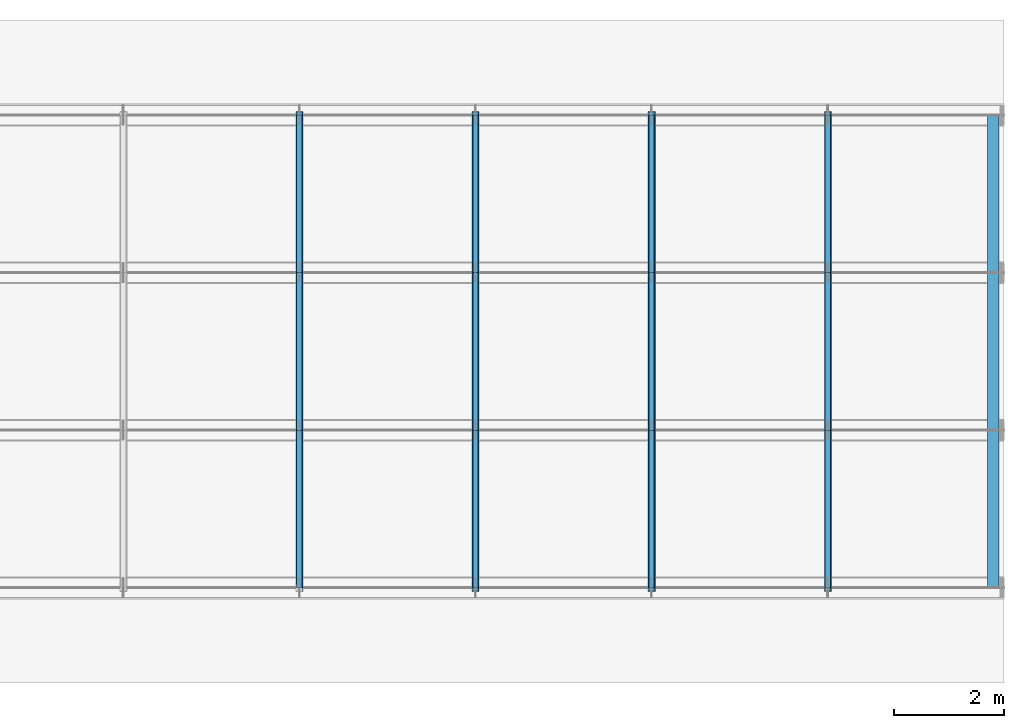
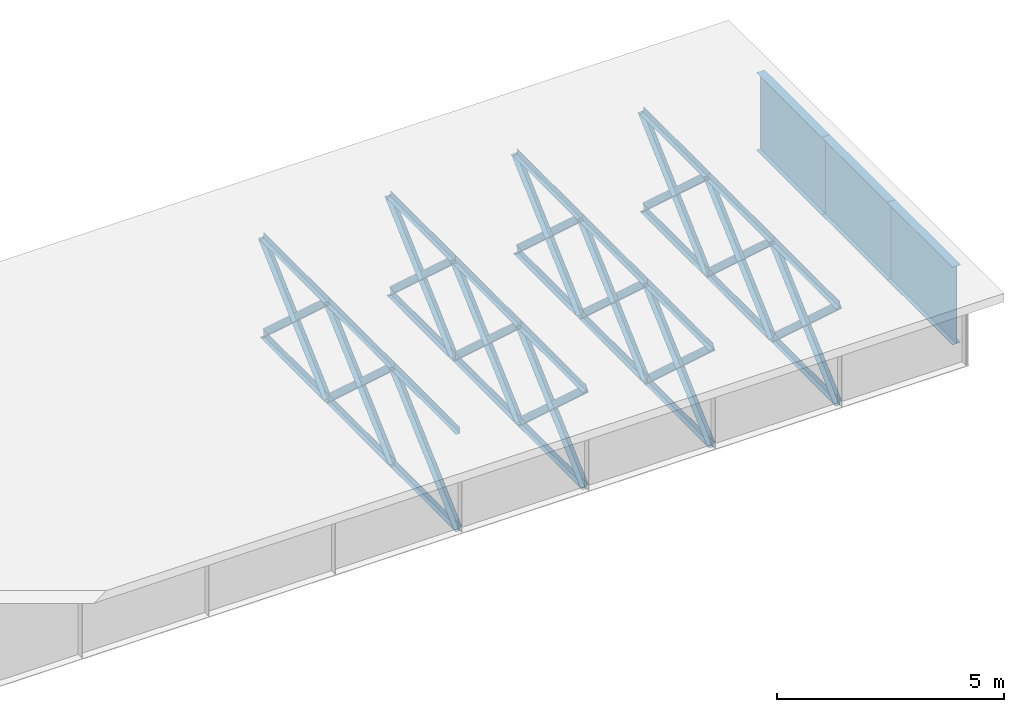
# One storey, part 2 of 13: 50 members.
"""IFC4 building model written with IfcOpenShell, lengths in metres."""

from ifc_helpers import new_model, si_unit, frame, origin, origin_with_axes, origin_2d_with_axis, place, context, subcontext, project, spatial, i_section, l_section, extrude, element, save


model = new_model("IFC4")

# Units and contexts
model_context = context("Model", 3, precision=1e-05, world=origin())
body_context = subcontext(model_context, "Body", "Model", "MODEL_VIEW")
ifc_project = project(units=[si_unit("LENGTHUNIT", "METRE"), si_unit("AREAUNIT", "SQUARE_METRE"), si_unit("VOLUMEUNIT", "CUBIC_METRE"), si_unit("PLANEANGLEUNIT", "RADIAN")], contexts=[model_context])

# Site, building, storey
site_placement = place(None, origin_with_axes())
site = spatial("IfcSite", under=ifc_project, at=site_placement, Name="Default Site")
building_placement = place(site_placement, origin_with_axes())
building = spatial("IfcBuilding", under=site, at=building_placement, Name="Bridge Structure")
storey_placement = place(building_placement, origin_with_axes())
storey = spatial("IfcBuildingStorey", under=building, at=storey_placement, Name="Superstructure")

# Members
member_placement = place(storey_placement, frame((32.14285714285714, -4.3125, -1.307), z_axis=(0.0, 0.7398934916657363, 0.6727240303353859), x_axis=(-1.0, 0.0, 0.0)))
element("IfcMember", 1, at=member_placement, inside=storey, Name="Diagonal Brace", context=body_context, shape_type="SweptSolid", body=[
    extrude(l_section(Depth=0.196, Width=0.13, Thickness=0.008, at=origin_2d_with_axis()), origin_with_axes(), (0.0, 0.0, 1.0), 3.88569440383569),
])
for number, where, z_axis, x_axis, name in (
    (2, (32.14285714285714, -4.3125, -1.307), (0.0, 1.0, 0.0), (-1.0, 0.0, 0.0), "Bottom Chord"),
    (3, (32.14285714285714, -4.3125, 1.307), (0.0, 1.0, 0.0), (-1.0, 0.0, 0.0), "Top Chord"),
):
    element("IfcMember", number, at=place(storey_placement, frame(where, z_axis=z_axis, x_axis=x_axis)), inside=storey, Name=name, context=body_context, shape_type="SweptSolid", body=[
        extrude(l_section(Depth=0.169, Width=0.10400000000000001, Thickness=0.008, at=origin_2d_with_axis()), origin_with_axes(), (0.0, 0.0, 1.0), 2.875),
    ])
for number, where, z_axis, x_axis, name in (
    (4, (32.14285714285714, -1.4375, 1.307), (0.0, 0.7398934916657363, -0.6727240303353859), (-1.0, 0.0, 0.0), "Diagonal Brace"),
    (5, (32.14285714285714, -1.4375, -1.307), (0.0, 0.7398934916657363, 0.6727240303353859), (-1.0, 0.0, 0.0), "Diagonal Brace"),
):
    element("IfcMember", number, at=place(storey_placement, frame(where, z_axis=z_axis, x_axis=x_axis)), inside=storey, Name=name, context=body_context, shape_type="SweptSolid", body=[
        extrude(l_section(Depth=0.196, Width=0.13, Thickness=0.008, at=origin_2d_with_axis()), origin_with_axes(), (0.0, 0.0, 1.0), 3.88569440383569),
    ])
for number, where, z_axis, x_axis, name in (
    (6, (32.14285714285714, -1.4375, -1.307), (0.0, 1.0, 0.0), (-1.0, 0.0, 0.0), "Bottom Chord"),
    (7, (32.14285714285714, -1.4375, 1.307), (0.0, 1.0, 0.0), (-1.0, 0.0, 0.0), "Top Chord"),
):
    element("IfcMember", number, at=place(storey_placement, frame(where, z_axis=z_axis, x_axis=x_axis)), inside=storey, Name=name, context=body_context, shape_type="SweptSolid", body=[
        extrude(l_section(Depth=0.169, Width=0.10400000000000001, Thickness=0.008, at=origin_2d_with_axis()), origin_with_axes(), (0.0, 0.0, 1.0), 2.875),
    ])
for number, where, z_axis, x_axis, name in (
    (8, (32.14285714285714, 1.4375, 1.307), (0.0, 0.7398934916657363, -0.6727240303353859), (-1.0, 0.0, 0.0), "Diagonal Brace"),
    (9, (32.14285714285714, 1.4375, -1.307), (0.0, 0.7398934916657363, 0.6727240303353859), (-1.0, 0.0, 0.0), "Diagonal Brace"),
):
    element("IfcMember", number, at=place(storey_placement, frame(where, z_axis=z_axis, x_axis=x_axis)), inside=storey, Name=name, context=body_context, shape_type="SweptSolid", body=[
        extrude(l_section(Depth=0.196, Width=0.13, Thickness=0.008, at=origin_2d_with_axis()), origin_with_axes(), (0.0, 0.0, 1.0), 3.88569440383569),
    ])
for number, where, z_axis, x_axis, name in (
    (10, (32.14285714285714, 1.4375, -1.307), (0.0, 1.0, 0.0), (-1.0, 0.0, 0.0), "Bottom Chord"),
    (11, (32.14285714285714, 1.4375, 1.307), (0.0, 1.0, 0.0), (-1.0, 0.0, 0.0), "Top Chord"),
):
    element("IfcMember", number, at=place(storey_placement, frame(where, z_axis=z_axis, x_axis=x_axis)), inside=storey, Name=name, context=body_context, shape_type="SweptSolid", body=[
        extrude(l_section(Depth=0.169, Width=0.10400000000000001, Thickness=0.008, at=origin_2d_with_axis()), origin_with_axes(), (0.0, 0.0, 1.0), 2.875),
    ])
for number, where, z_axis, x_axis, name in (
    (12, (35.357142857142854, -4.3125, 1.307), (0.0, 0.7398934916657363, -0.6727240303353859), (-1.0, 0.0, 0.0), "Diagonal Brace"),
    (13, (35.357142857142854, -4.3125, -1.307), (0.0, 0.7398934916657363, 0.6727240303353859), (-1.0, 0.0, 0.0), "Diagonal Brace"),
):
    element("IfcMember", number, at=place(storey_placement, frame(where, z_axis=z_axis, x_axis=x_axis)), inside=storey, Name=name, context=body_context, shape_type="SweptSolid", body=[
        extrude(l_section(Depth=0.196, Width=0.13, Thickness=0.008, at=origin_2d_with_axis()), origin_with_axes(), (0.0, 0.0, 1.0), 3.88569440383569),
    ])
for number, where, z_axis, x_axis, name in (
    (14, (35.357142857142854, -4.3125, -1.307), (0.0, 1.0, 0.0), (-1.0, 0.0, 0.0), "Bottom Chord"),
    (15, (35.357142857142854, -4.3125, 1.307), (0.0, 1.0, 0.0), (-1.0, 0.0, 0.0), "Top Chord"),
):
    element("IfcMember", number, at=place(storey_placement, frame(where, z_axis=z_axis, x_axis=x_axis)), inside=storey, Name=name, context=body_context, shape_type="SweptSolid", body=[
        extrude(l_section(Depth=0.169, Width=0.10400000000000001, Thickness=0.008, at=origin_2d_with_axis()), origin_with_axes(), (0.0, 0.0, 1.0), 2.875),
    ])
for number, where, z_axis, x_axis, name in (
    (16, (35.357142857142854, -1.4375, 1.307), (0.0, 0.7398934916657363, -0.6727240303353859), (-1.0, 0.0, 0.0), "Diagonal Brace"),
    (17, (35.357142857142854, -1.4375, -1.307), (0.0, 0.7398934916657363, 0.6727240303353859), (-1.0, 0.0, 0.0), "Diagonal Brace"),
):
    element("IfcMember", number, at=place(storey_placement, frame(where, z_axis=z_axis, x_axis=x_axis)), inside=storey, Name=name, context=body_context, shape_type="SweptSolid", body=[
        extrude(l_section(Depth=0.196, Width=0.13, Thickness=0.008, at=origin_2d_with_axis()), origin_with_axes(), (0.0, 0.0, 1.0), 3.88569440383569),
    ])
for number, where, z_axis, x_axis, name in (
    (18, (35.357142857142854, -1.4375, -1.307), (0.0, 1.0, 0.0), (-1.0, 0.0, 0.0), "Bottom Chord"),
    (19, (35.357142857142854, -1.4375, 1.307), (0.0, 1.0, 0.0), (-1.0, 0.0, 0.0), "Top Chord"),
):
    element("IfcMember", number, at=place(storey_placement, frame(where, z_axis=z_axis, x_axis=x_axis)), inside=storey, Name=name, context=body_context, shape_type="SweptSolid", body=[
        extrude(l_section(Depth=0.169, Width=0.10400000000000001, Thickness=0.008, at=origin_2d_with_axis()), origin_with_axes(), (0.0, 0.0, 1.0), 2.875),
    ])
for number, where, z_axis, x_axis, name in (
    (20, (35.357142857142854, 1.4375, 1.307), (0.0, 0.7398934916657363, -0.6727240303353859), (-1.0, 0.0, 0.0), "Diagonal Brace"),
    (21, (35.357142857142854, 1.4375, -1.307), (0.0, 0.7398934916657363, 0.6727240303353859), (-1.0, 0.0, 0.0), "Diagonal Brace"),
):
    element("IfcMember", number, at=place(storey_placement, frame(where, z_axis=z_axis, x_axis=x_axis)), inside=storey, Name=name, context=body_context, shape_type="SweptSolid", body=[
        extrude(l_section(Depth=0.196, Width=0.13, Thickness=0.008, at=origin_2d_with_axis()), origin_with_axes(), (0.0, 0.0, 1.0), 3.88569440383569),
    ])
for number, where, z_axis, x_axis, name in (
    (22, (35.357142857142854, 1.4375, -1.307), (0.0, 1.0, 0.0), (-1.0, 0.0, 0.0), "Bottom Chord"),
    (23, (35.357142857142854, 1.4375, 1.307), (0.0, 1.0, 0.0), (-1.0, 0.0, 0.0), "Top Chord"),
):
    element("IfcMember", number, at=place(storey_placement, frame(where, z_axis=z_axis, x_axis=x_axis)), inside=storey, Name=name, context=body_context, shape_type="SweptSolid", body=[
        extrude(l_section(Depth=0.169, Width=0.10400000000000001, Thickness=0.008, at=origin_2d_with_axis()), origin_with_axes(), (0.0, 0.0, 1.0), 2.875),
    ])
for number, where, z_axis, x_axis, name in (
    (24, (38.57142857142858, -4.3125, 1.307), (0.0, 0.7398934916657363, -0.6727240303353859), (-1.0, 0.0, 0.0), "Diagonal Brace"),
    (25, (38.57142857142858, -4.3125, -1.307), (0.0, 0.7398934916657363, 0.6727240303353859), (-1.0, 0.0, 0.0), "Diagonal Brace"),
):
    element("IfcMember", number, at=place(storey_placement, frame(where, z_axis=z_axis, x_axis=x_axis)), inside=storey, Name=name, context=body_context, shape_type="SweptSolid", body=[
        extrude(l_section(Depth=0.196, Width=0.13, Thickness=0.008, at=origin_2d_with_axis()), origin_with_axes(), (0.0, 0.0, 1.0), 3.88569440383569),
    ])
for number, where, z_axis, x_axis, name in (
    (26, (38.57142857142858, -4.3125, -1.307), (0.0, 1.0, 0.0), (-1.0, 0.0, 0.0), "Bottom Chord"),
    (27, (38.57142857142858, -4.3125, 1.307), (0.0, 1.0, 0.0), (-1.0, 0.0, 0.0), "Top Chord"),
):
    element("IfcMember", number, at=place(storey_placement, frame(where, z_axis=z_axis, x_axis=x_axis)), inside=storey, Name=name, context=body_context, shape_type="SweptSolid", body=[
        extrude(l_section(Depth=0.169, Width=0.10400000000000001, Thickness=0.008, at=origin_2d_with_axis()), origin_with_axes(), (0.0, 0.0, 1.0), 2.875),
    ])
for number, where, z_axis, x_axis, name in (
    (28, (38.57142857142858, -1.4375, 1.307), (0.0, 0.7398934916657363, -0.6727240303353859), (-1.0, 0.0, 0.0), "Diagonal Brace"),
    (29, (38.57142857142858, -1.4375, -1.307), (0.0, 0.7398934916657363, 0.6727240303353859), (-1.0, 0.0, 0.0), "Diagonal Brace"),
):
    element("IfcMember", number, at=place(storey_placement, frame(where, z_axis=z_axis, x_axis=x_axis)), inside=storey, Name=name, context=body_context, shape_type="SweptSolid", body=[
        extrude(l_section(Depth=0.196, Width=0.13, Thickness=0.008, at=origin_2d_with_axis()), origin_with_axes(), (0.0, 0.0, 1.0), 3.88569440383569),
    ])
for number, where, z_axis, x_axis, name in (
    (30, (38.57142857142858, -1.4375, -1.307), (0.0, 1.0, 0.0), (-1.0, 0.0, 0.0), "Bottom Chord"),
    (31, (38.57142857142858, -1.4375, 1.307), (0.0, 1.0, 0.0), (-1.0, 0.0, 0.0), "Top Chord"),
):
    element("IfcMember", number, at=place(storey_placement, frame(where, z_axis=z_axis, x_axis=x_axis)), inside=storey, Name=name, context=body_context, shape_type="SweptSolid", body=[
        extrude(l_section(Depth=0.169, Width=0.10400000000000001, Thickness=0.008, at=origin_2d_with_axis()), origin_with_axes(), (0.0, 0.0, 1.0), 2.875),
    ])
for number, where, z_axis, x_axis, name in (
    (32, (38.57142857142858, 1.4375, 1.307), (0.0, 0.7398934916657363, -0.6727240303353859), (-1.0, 0.0, 0.0), "Diagonal Brace"),
    (33, (38.57142857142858, 1.4375, -1.307), (0.0, 0.7398934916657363, 0.6727240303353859), (-1.0, 0.0, 0.0), "Diagonal Brace"),
):
    element("IfcMember", number, at=place(storey_placement, frame(where, z_axis=z_axis, x_axis=x_axis)), inside=storey, Name=name, context=body_context, shape_type="SweptSolid", body=[
        extrude(l_section(Depth=0.196, Width=0.13, Thickness=0.008, at=origin_2d_with_axis()), origin_with_axes(), (0.0, 0.0, 1.0), 3.88569440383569),
    ])
for number, where, z_axis, x_axis, name in (
    (34, (38.57142857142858, 1.4375, -1.307), (0.0, 1.0, 0.0), (-1.0, 0.0, 0.0), "Bottom Chord"),
    (35, (38.57142857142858, 1.4375, 1.307), (0.0, 1.0, 0.0), (-1.0, 0.0, 0.0), "Top Chord"),
):
    element("IfcMember", number, at=place(storey_placement, frame(where, z_axis=z_axis, x_axis=x_axis)), inside=storey, Name=name, context=body_context, shape_type="SweptSolid", body=[
        extrude(l_section(Depth=0.169, Width=0.10400000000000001, Thickness=0.008, at=origin_2d_with_axis()), origin_with_axes(), (0.0, 0.0, 1.0), 2.875),
    ])
for number, where, z_axis, x_axis, name in (
    (36, (41.785714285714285, -4.3125, 1.307), (0.0, 0.7398934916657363, -0.6727240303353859), (-1.0, 0.0, 0.0), "Diagonal Brace"),
    (37, (41.785714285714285, -4.3125, -1.307), (0.0, 0.7398934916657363, 0.6727240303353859), (-1.0, 0.0, 0.0), "Diagonal Brace"),
):
    element("IfcMember", number, at=place(storey_placement, frame(where, z_axis=z_axis, x_axis=x_axis)), inside=storey, Name=name, context=body_context, shape_type="SweptSolid", body=[
        extrude(l_section(Depth=0.196, Width=0.13, Thickness=0.008, at=origin_2d_with_axis()), origin_with_axes(), (0.0, 0.0, 1.0), 3.88569440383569),
    ])
for number, where, z_axis, x_axis, name in (
    (38, (41.785714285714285, -4.3125, -1.307), (0.0, 1.0, 0.0), (-1.0, 0.0, 0.0), "Bottom Chord"),
    (39, (41.785714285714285, -4.3125, 1.307), (0.0, 1.0, 0.0), (-1.0, 0.0, 0.0), "Top Chord"),
):
    element("IfcMember", number, at=place(storey_placement, frame(where, z_axis=z_axis, x_axis=x_axis)), inside=storey, Name=name, context=body_context, shape_type="SweptSolid", body=[
        extrude(l_section(Depth=0.169, Width=0.10400000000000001, Thickness=0.008, at=origin_2d_with_axis()), origin_with_axes(), (0.0, 0.0, 1.0), 2.875),
    ])
for number, where, z_axis, x_axis, name in (
    (40, (41.785714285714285, -1.4375, 1.307), (0.0, 0.7398934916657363, -0.6727240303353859), (-1.0, 0.0, 0.0), "Diagonal Brace"),
    (41, (41.785714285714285, -1.4375, -1.307), (0.0, 0.7398934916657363, 0.6727240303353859), (-1.0, 0.0, 0.0), "Diagonal Brace"),
):
    element("IfcMember", number, at=place(storey_placement, frame(where, z_axis=z_axis, x_axis=x_axis)), inside=storey, Name=name, context=body_context, shape_type="SweptSolid", body=[
        extrude(l_section(Depth=0.196, Width=0.13, Thickness=0.008, at=origin_2d_with_axis()), origin_with_axes(), (0.0, 0.0, 1.0), 3.88569440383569),
    ])
for number, where, z_axis, x_axis, name in (
    (42, (41.785714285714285, -1.4375, -1.307), (0.0, 1.0, 0.0), (-1.0, 0.0, 0.0), "Bottom Chord"),
    (43, (41.785714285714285, -1.4375, 1.307), (0.0, 1.0, 0.0), (-1.0, 0.0, 0.0), "Top Chord"),
):
    element("IfcMember", number, at=place(storey_placement, frame(where, z_axis=z_axis, x_axis=x_axis)), inside=storey, Name=name, context=body_context, shape_type="SweptSolid", body=[
        extrude(l_section(Depth=0.169, Width=0.10400000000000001, Thickness=0.008, at=origin_2d_with_axis()), origin_with_axes(), (0.0, 0.0, 1.0), 2.875),
    ])
for number, where, z_axis, x_axis, name in (
    (44, (41.785714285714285, 1.4375, 1.307), (0.0, 0.7398934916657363, -0.6727240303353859), (-1.0, 0.0, 0.0), "Diagonal Brace"),
    (45, (41.785714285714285, 1.4375, -1.307), (0.0, 0.7398934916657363, 0.6727240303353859), (-1.0, 0.0, 0.0), "Diagonal Brace"),
):
    element("IfcMember", number, at=place(storey_placement, frame(where, z_axis=z_axis, x_axis=x_axis)), inside=storey, Name=name, context=body_context, shape_type="SweptSolid", body=[
        extrude(l_section(Depth=0.196, Width=0.13, Thickness=0.008, at=origin_2d_with_axis()), origin_with_axes(), (0.0, 0.0, 1.0), 3.88569440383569),
    ])
for number, where, z_axis, x_axis, name in (
    (46, (41.785714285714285, 1.4375, -1.307), (0.0, 1.0, 0.0), (-1.0, 0.0, 0.0), "Bottom Chord"),
    (47, (41.785714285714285, 1.4375, 1.307), (0.0, 1.0, 0.0), (-1.0, 0.0, 0.0), "Top Chord"),
):
    element("IfcMember", number, at=place(storey_placement, frame(where, z_axis=z_axis, x_axis=x_axis)), inside=storey, Name=name, context=body_context, shape_type="SweptSolid", body=[
        extrude(l_section(Depth=0.169, Width=0.10400000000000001, Thickness=0.008, at=origin_2d_with_axis()), origin_with_axes(), (0.0, 0.0, 1.0), 2.875),
    ])
for number, where, z_axis, x_axis, name in (
    (48, (44.800000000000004, -4.3125, 0.2615), (0.0, 1.0, 0.0), (-1.0, 0.0, 0.0), "End Diaphragm"),
    (49, (44.800000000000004, -1.4375, 0.2615), (0.0, 1.0, 0.0), (-1.0, 0.0, 0.0), "End Diaphragm"),
    (50, (44.800000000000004, 1.4375, 0.2615), (0.0, 1.0, 0.0), (-1.0, 0.0, 0.0), "End Diaphragm"),
):
    element("IfcMember", number, at=place(storey_placement, frame(where, z_axis=z_axis, x_axis=x_axis)), inside=storey, Name=name, context=body_context, shape_type="SweptSolid", body=[
        extrude(i_section(OverallWidth=0.21, OverallDepth=2.091, WebThickness=0.018000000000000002, FlangeThickness=0.012, at=origin_2d_with_axis()), origin_with_axes(), (0.0, 0.0, 1.0), 2.875),
    ])

save(model, "model.ifc")
